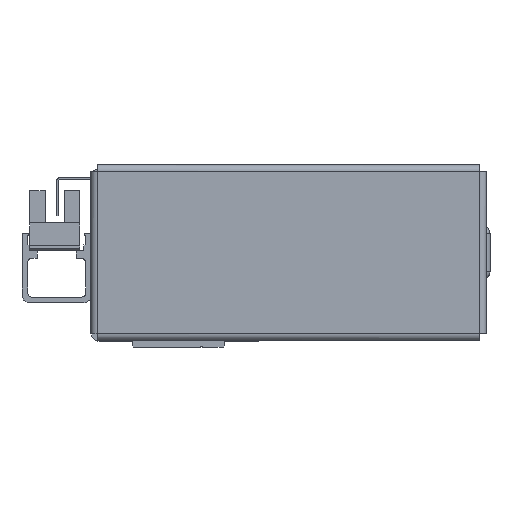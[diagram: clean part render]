
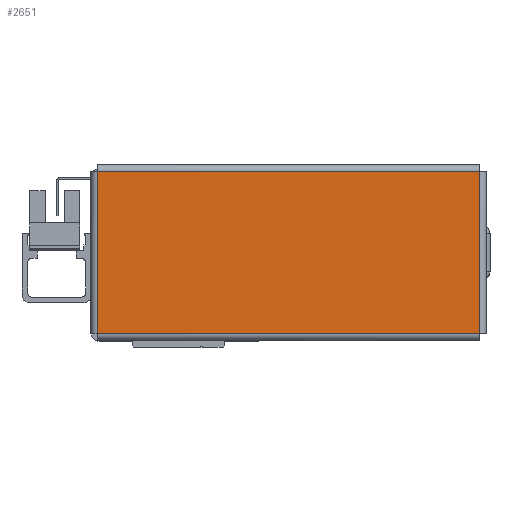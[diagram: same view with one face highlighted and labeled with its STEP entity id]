
A CAD part, left-side view. The second image highlights one B-rep face of the part: STEP entity #2651.
In plain terms, the highlighted planar face has unit normal (-1, 0, 0) as drawn and (0, 0, -1) by its records, which use the part's own axes.
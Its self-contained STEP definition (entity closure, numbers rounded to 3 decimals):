
#743 = ORIENTED_EDGE ( 'NONE', *, *, #30400, .T. ) ;
#1022 = CARTESIAN_POINT ( 'NONE',  ( -49.513, -21.043, -1. ) ) ;
#1591 = VECTOR ( 'NONE', #27478, 1000. ) ;
#1944 = CARTESIAN_POINT ( 'NONE',  ( 49.513, 21.043, -1. ) ) ;
#2651 = ADVANCED_FACE ( 'NONE', ( #32204 ), #31799, .F. ) ;
#2991 = DIRECTION ( 'NONE',  ( 1., 0., 0. ) ) ;
#4276 = EDGE_LOOP ( 'NONE', ( #27787, #11704, #13299, #743 ) ) ;
#6565 = VECTOR ( 'NONE', #15606, 1000. ) ;
#6931 = CARTESIAN_POINT ( 'NONE',  ( 49.513, 21.013, -1. ) ) ;
#9077 = LINE ( 'NONE', #1944, #16194 ) ;
#10256 = VERTEX_POINT ( 'NONE', #15889 ) ;
#11609 = VECTOR ( 'NONE', #17589, 1000. ) ;
#11704 = ORIENTED_EDGE ( 'NONE', *, *, #30207, .T. ) ;
#12194 = VERTEX_POINT ( 'NONE', #27887 ) ;
#13299 = ORIENTED_EDGE ( 'NONE', *, *, #30300, .T. ) ;
#13670 = LINE ( 'NONE', #31158, #6565 ) ;
#15606 = DIRECTION ( 'NONE',  ( -1., 0., 0. ) ) ;
#15889 = CARTESIAN_POINT ( 'NONE',  ( 49.513, -21.013, -1. ) ) ;
#15997 = VERTEX_POINT ( 'NONE', #33883 ) ;
#16194 = VECTOR ( 'NONE', #17951, 1000. ) ;
#17442 = VERTEX_POINT ( 'NONE', #6931 ) ;
#17589 = DIRECTION ( 'NONE',  ( 1., 0., 0. ) ) ;
#17951 = DIRECTION ( 'NONE',  ( 0., -1., 0. ) ) ;
#19015 = DIRECTION ( 'NONE',  ( 0., 0., 1. ) ) ;
#23750 = LINE ( 'NONE', #1022, #1591 ) ;
#26804 = CARTESIAN_POINT ( 'NONE',  ( 0., 0., -1. ) ) ;
#26806 = AXIS2_PLACEMENT_3D ( 'NONE', #26804, #19015, #2991 ) ;
#27478 = DIRECTION ( 'NONE',  ( 0., 1., 0. ) ) ;
#27787 = ORIENTED_EDGE ( 'NONE', *, *, #30063, .T. ) ;
#27887 = CARTESIAN_POINT ( 'NONE',  ( -49.513, 21.013, -1. ) ) ;
#30063 = EDGE_CURVE ( 'NONE', #15997, #12194, #23750, .T. ) ;
#30207 = EDGE_CURVE ( 'NONE', #12194, #17442, #31596, .T. ) ;
#30300 = EDGE_CURVE ( 'NONE', #17442, #10256, #9077, .T. ) ;
#30400 = EDGE_CURVE ( 'NONE', #10256, #15997, #13670, .T. ) ;
#31158 = CARTESIAN_POINT ( 'NONE',  ( 49.543, -21.013, -1. ) ) ;
#31596 = LINE ( 'NONE', #33022, #11609 ) ;
#31799 = PLANE ( 'NONE',  #26806 ) ;
#32204 = FACE_OUTER_BOUND ( 'NONE', #4276, .T. ) ;
#33022 = CARTESIAN_POINT ( 'NONE',  ( -49.543, 21.013, -1. ) ) ;
#33883 = CARTESIAN_POINT ( 'NONE',  ( -49.513, -21.013, -1. ) ) ;
